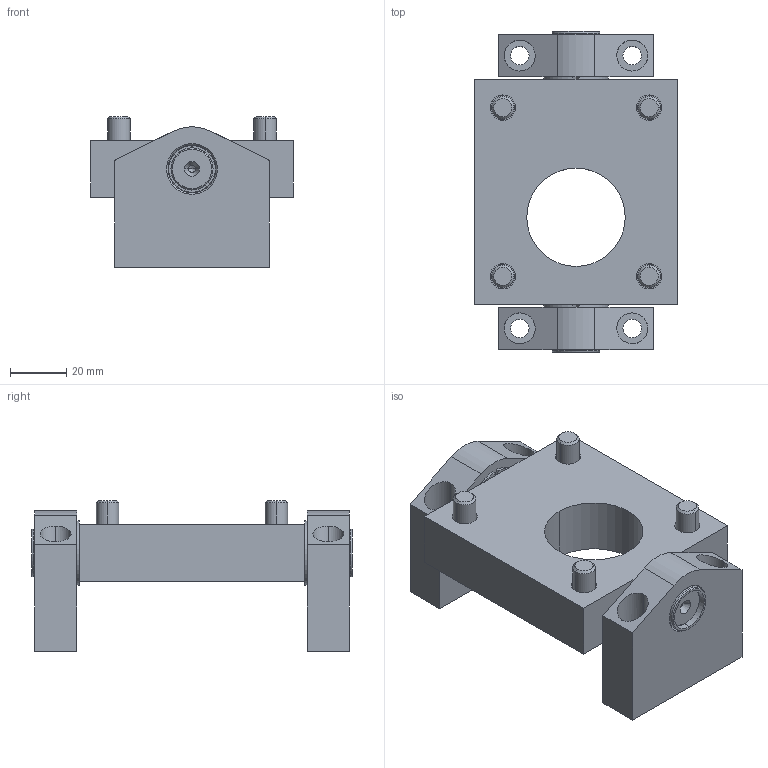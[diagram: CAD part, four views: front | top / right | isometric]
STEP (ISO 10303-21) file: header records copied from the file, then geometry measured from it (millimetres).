
FILE_DESCRIPTION (( 'STEP AP203' ), '1' );
FILE_NAME ('MJ1-KP(Z1)-SFK.STEP', '2024-01-16T10:42:50', ( '' ), ( '' ), 'SwSTEP 2.0', 'SolidWorks 2022', '' );
FILE_SCHEMA (( 'CONFIG_CONTROL_DESIGN' ));
Length unit declared in the file: millimetre
Products named in the file (1): MJ1-KP(Z1)-SFK
Bounding box: 72 x 114.15 x 53.6 mm (x, y, z)
Volume: 160166.8 mm3; surface area: 50664.1 mm2
Topology: 9 solids, 9 shells, 220 faces, 530 edges, 336 vertices
Faces by surface type: plane 80, cylinder 76, cone 40, torus 24
Entity records: 6497 total; most frequent: CARTESIAN_POINT 1225, DIRECTION 1152, ORIENTED_EDGE 1036, EDGE_CURVE 518, AXIS2_PLACEMENT_3D 461, VERTEX_POINT 336, EDGE_LOOP 262, CIRCLE 240
